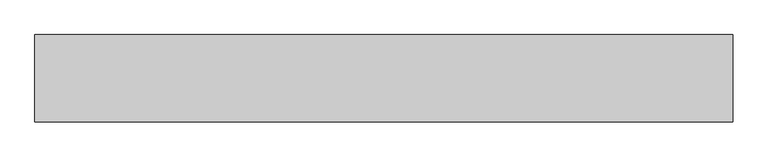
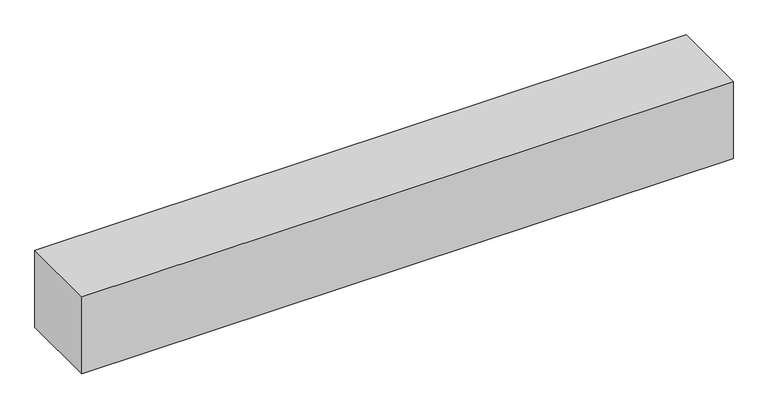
"""IFC4 building model written with IfcOpenShell, lengths in millimetres: proxy geometry, 営_屋上基礎_簡易 : 4000*500*H500."""

from ifc_helpers import new_model, si_unit, origin, origin_with_axes, place, context, project, spatial, polyline, outline, extrude, source, transform, mapped, element, save


def generic_models_cfce5d03(model_context):
    return source(origin(), model_context, "Body", "SweptSolid", [
        extrude(outline(polyline([(2000.0, 250.0), (2000.0, -250.0), (-2000.0, -250.0), (-2000.0, 250.0), (2000.0, 250.0)])), origin_with_axes(), (0.0, 0.0, 1.0), 500.0),
    ])


if __name__ == "__main__":
    model = new_model("IFC4")
    model_context = context("Model", 3, world=origin())
    ifc_project = project(units=[si_unit("LENGTHUNIT", "METRE", prefix="MILLI")], contexts=[model_context])
    site = spatial("IfcSite", under=ifc_project)
    building = spatial("IfcBuilding", under=site)
    placement = place(None, origin())
    generic_models_shape = generic_models_cfce5d03(model_context)
    element("IfcBuildingElementProxy", 1, Name="営_屋上基礎_簡易 : 4000*500*H500", ObjectType="営_屋上基礎_簡易 : 4000*500*H500", at=placement, inside=building, context=model_context, shape_type="MappedRepresentation", body=[
        mapped(generic_models_shape, transform((0.0, 0.0, 0.0), x_axis=(1.0, 0.0, 0.0), y_axis=(0.0, 1.0, 0.0), z_axis=(0.0, 0.0, 1.0))),
    ])
    save(model, "model.ifc")
